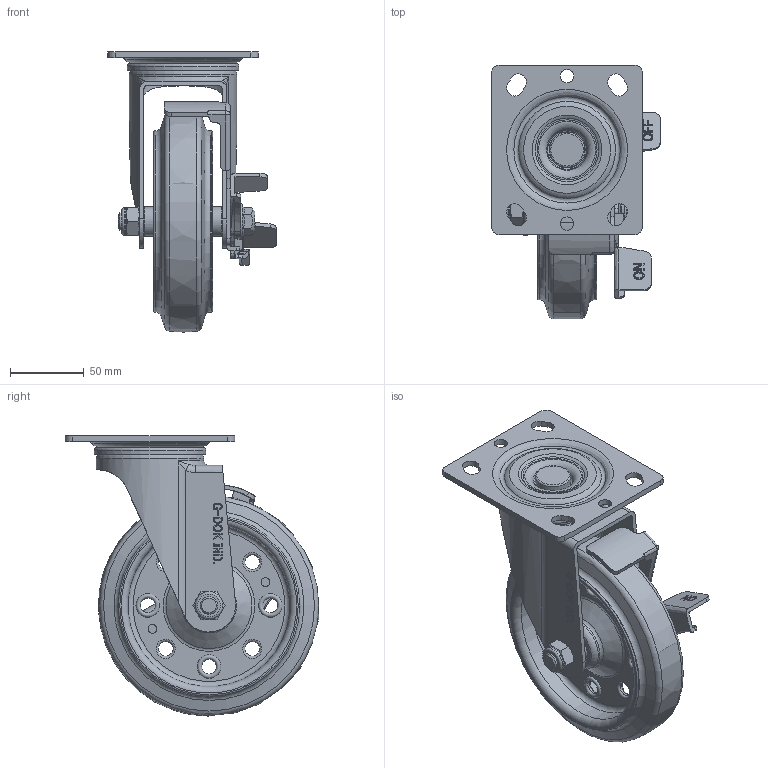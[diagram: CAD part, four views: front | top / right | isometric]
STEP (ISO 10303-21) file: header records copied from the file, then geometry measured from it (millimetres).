
FILE_DESCRIPTION(/* description */ (''),/* implementation_level */ '2;1');
FILE_NAME(/* name */ '\\Common1\d\1.기술연구소\1.\X2\C81CD488B3C4BA74C815B9AC\X0\\1.양산품\24.RT-SERIES-OK\RT-150\RT3\RT3-150 B SF-ASSY.stp',/* time_stamp */ '2015-03-16T18:26:31+09:00',/* author */ ('오창근'),/* organization */ (''),/* preprocessor_version */ 'ST-DEVELOPER v15.6',/* originating_system */ 'Autodesk Inventor 2015',/* authorisation */ '');
FILE_SCHEMA (('AUTOMOTIVE_DESIGN { 1 0 10303 214 3 1 1 }'));
Length unit declared in the file: centimetre
Products named in the file (1): RT3-150 B SF-ASSY
Bounding box: 114.1 x 171.95 x 190 mm (x, y, z)
Volume: 449161.9 mm3; surface area: 180139.8 mm2
Topology: 6 solids, 12 shells, 849 faces, 2134 edges, 1348 vertices
Faces by surface type: plane 356, bspline 179, cylinder 176, torus 110, cone 24, sphere 4
Full cylindrical faces by diameter (mm): 6 x2, 9 x2, 10 x8, 12 x2, 12.2 x1, 14.8 x1, 14.9 x1, 15 x1, 15.1 x2, 17.8 x1, 18.2 x2, 18.5 x1, 20.2 x3, 23 x2, 24 x2, 24.4 x1, 26.6 x3, 32 x1, 35 x2, 36.549 x1, 54.5 x1, 67 x1, 73 x1, 74.4 x1, 75.8 x1, 110 x2, 123 x2
Entity records: 32411 total; most frequent: CARTESIAN_POINT 13944, ORIENTED_EDGE 3866, DIRECTION 3300, EDGE_CURVE 1933, VERTEX_POINT 1316, AXIS2_PLACEMENT_3D 1170, EDGE_LOOP 1123, LINE 960
